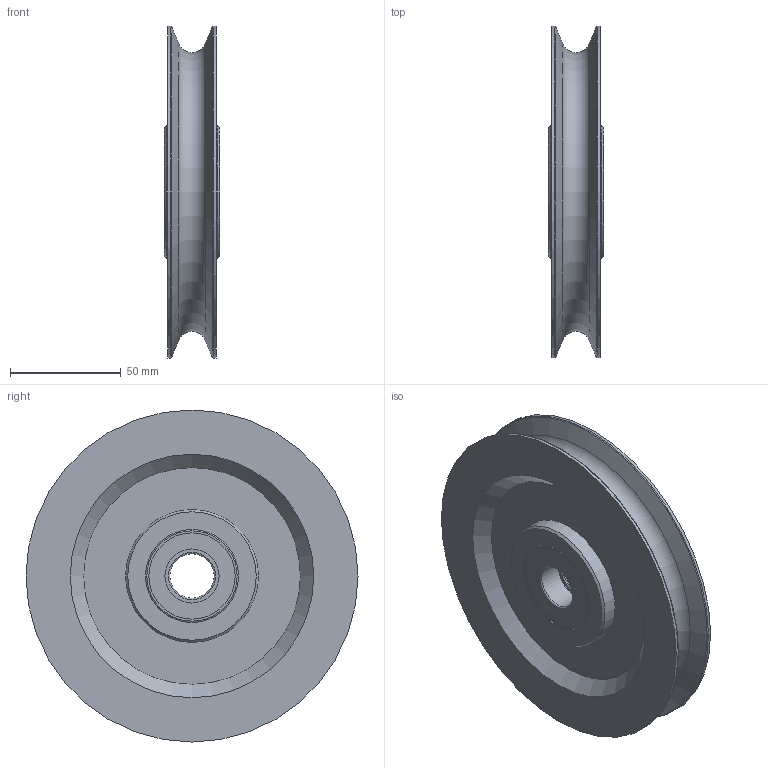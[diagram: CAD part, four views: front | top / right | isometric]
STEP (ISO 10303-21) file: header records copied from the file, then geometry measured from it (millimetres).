
FILE_DESCRIPTION(/* description */ ('Seilrolle ø150 Kugellager komplett'),/* implementation_level */ '2;1');
FILE_NAME(/* name */ 'Z:\Workspace\03 Seilrollen\1.402 Seilrollen Kugellager\1.402.05 Seilrolle ø150 Kugellager\1.402.05 Seilrolle ø150 Kugellager komplett.stp',/* time_stamp */ '2021-10-04T12:45:29+02:00',/* author */ ('cad-user'),/* organization */ (''),/* preprocessor_version */ 'ST-DEVELOPER v18',/* originating_system */ 'Autodesk Inventor 2020',/* authorisation */ '');
FILE_SCHEMA (('AUTOMOTIVE_DESIGN { 1 0 10303 214 3 1 1 }'));
Length unit declared in the file: millimetre
Products named in the file (8): 1.402.05 Seilrolle ø150 Kugellager komplett; 1.402.05 Seilrolle ø150 Kugellager; DIN625 - 6004-2RS - P63; din625_-_6004-2rs_-_p63_0_05; din625_-_6004-2rs_-_p63_0_04; din625_-_6004-2rs_-_p63_0_03; din625_-_6004-2rs_-_p63_0_02; din625_-_6004-2rs_-_p63_0_01
Assembly tree (8 placements, depth 3):
  1.402.05 Seilrolle ø150 Kugellager komplett
    1.402.05 Seilrolle ø150 Kugellager
    DIN625 - 6004-2RS - P63  x2
      din625_-_6004-2rs_-_p63_0_05
      din625_-_6004-2rs_-_p63_0_04
      din625_-_6004-2rs_-_p63_0_03
      din625_-_6004-2rs_-_p63_0_02
      din625_-_6004-2rs_-_p63_0_01
Bounding box: 25 x 150 x 150 mm (x, y, z)
Volume: 242383.7 mm3; surface area: 77093 mm2
Topology: 11 solids, 11 shells, 120 faces, 344 edges, 256 vertices
Faces by surface type: cylinder 35, plane 32, torus 31, sphere 16, cone 6
Full cylindrical faces by diameter (mm): 20 x2, 24.4 x8, 26.6 x4, 35.4 x4, 36 x1, 39 x8, 42 x4, 60 x2, 150 x2
Entity records: 3261 total; most frequent: CARTESIAN_POINT 976, DIRECTION 465, ORIENTED_EDGE 380, AXIS2_PLACEMENT_3D 219, EDGE_CURVE 190, VERTEX_POINT 154, CIRCLE 131, EDGE_LOOP 108
